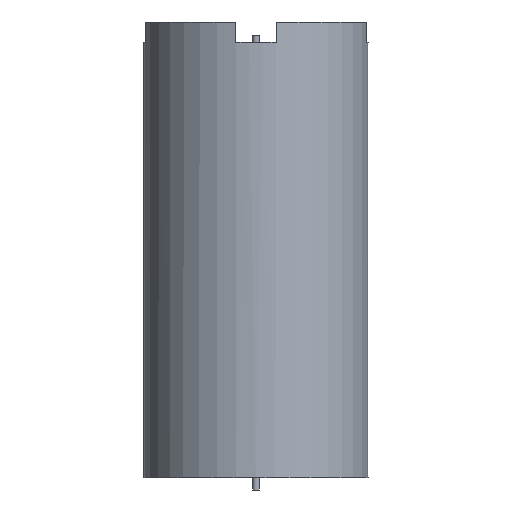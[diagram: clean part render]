
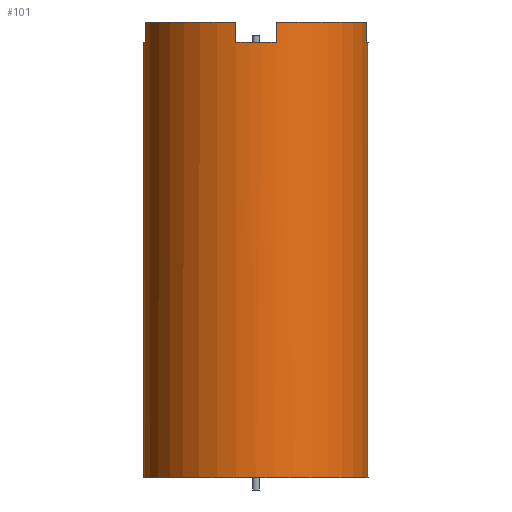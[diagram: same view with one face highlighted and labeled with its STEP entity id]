
A CAD part, front view. The second image highlights one B-rep face of the part: STEP entity #101.
In plain terms, the highlighted cylindrical face has radius 167.5 mm (diameter 335 mm), a full revolution.
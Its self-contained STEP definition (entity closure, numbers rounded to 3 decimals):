
#101 = ADVANCED_FACE( '', ( #212, #213 ), #214, .T. );
#212 = FACE_OUTER_BOUND( '', #333, .T. );
#213 = FACE_OUTER_BOUND( '', #334, .T. );
#214 = CYLINDRICAL_SURFACE( '', #335, 167.5 );
#333 = EDGE_LOOP( '', ( #552, #553, #554, #555, #556, #557, #558, #559, #560, #561, #562, #563, #564, #565, #566, #567 ) );
#334 = EDGE_LOOP( '', ( #568 ) );
#335 = AXIS2_PLACEMENT_3D( '', #569, #570, #571 );
#552 = ORIENTED_EDGE( '', *, *, #785, .F. );
#553 = ORIENTED_EDGE( '', *, *, #794, .T. );
#554 = ORIENTED_EDGE( '', *, *, #750, .F. );
#555 = ORIENTED_EDGE( '', *, *, #795, .F. );
#556 = ORIENTED_EDGE( '', *, *, #745, .F. );
#557 = ORIENTED_EDGE( '', *, *, #724, .T. );
#558 = ORIENTED_EDGE( '', *, *, #739, .F. );
#559 = ORIENTED_EDGE( '', *, *, #796, .F. );
#560 = ORIENTED_EDGE( '', *, *, #780, .F. );
#561 = ORIENTED_EDGE( '', *, *, #729, .T. );
#562 = ORIENTED_EDGE( '', *, *, #791, .F. );
#563 = ORIENTED_EDGE( '', *, *, #764, .F. );
#564 = ORIENTED_EDGE( '', *, *, #788, .F. );
#565 = ORIENTED_EDGE( '', *, *, #769, .T. );
#566 = ORIENTED_EDGE( '', *, *, #797, .F. );
#567 = ORIENTED_EDGE( '', *, *, #777, .F. );
#568 = ORIENTED_EDGE( '', *, *, #743, .T. );
#569 = CARTESIAN_POINT( '', ( 0., 0., 679. ) );
#570 = DIRECTION( '', ( 0., 0., 1. ) );
#571 = DIRECTION( '', ( -1., 0., 0. ) );
#724 = EDGE_CURVE( '', #868, #866, #869, .T. );
#729 = EDGE_CURVE( '', #877, #875, #878, .T. );
#739 = EDGE_CURVE( '', #890, #866, #893, .T. );
#743 = EDGE_CURVE( '', #898, #898, #899, .T. );
#745 = EDGE_CURVE( '', #868, #901, #902, .T. );
#750 = EDGE_CURVE( '', #907, #910, #911, .T. );
#764 = EDGE_CURVE( '', #931, #933, #934, .T. );
#769 = EDGE_CURVE( '', #942, #940, #943, .T. );
#777 = EDGE_CURVE( '', #953, #955, #956, .T. );
#780 = EDGE_CURVE( '', #877, #959, #960, .T. );
#785 = EDGE_CURVE( '', #966, #953, #968, .T. );
#788 = EDGE_CURVE( '', #942, #931, #971, .T. );
#791 = EDGE_CURVE( '', #933, #875, #974, .T. );
#794 = EDGE_CURVE( '', #966, #910, #977, .T. );
#795 = EDGE_CURVE( '', #901, #907, #978, .T. );
#796 = EDGE_CURVE( '', #959, #890, #979, .T. );
#797 = EDGE_CURVE( '', #955, #940, #980, .T. );
#866 = VERTEX_POINT( '', #1069 );
#868 = VERTEX_POINT( '', #1072 );
#869 = LINE( '', #1073, #1074 );
#875 = VERTEX_POINT( '', #1082 );
#877 = VERTEX_POINT( '', #1085 );
#878 = LINE( '', #1086, #1087 );
#890 = VERTEX_POINT( '', #1103 );
#893 = CIRCLE( '', #1107, 167.5 );
#898 = VERTEX_POINT( '', #1112 );
#899 = CIRCLE( '', #1113, 167.5 );
#901 = VERTEX_POINT( '', #1115 );
#902 = CIRCLE( '', #1116, 167.5 );
#907 = VERTEX_POINT( '', #1122 );
#910 = VERTEX_POINT( '', #1126 );
#911 = CIRCLE( '', #1127, 167.5 );
#931 = VERTEX_POINT( '', #1153 );
#933 = VERTEX_POINT( '', #1156 );
#934 = LINE( '', #1157, #1158 );
#940 = VERTEX_POINT( '', #1166 );
#942 = VERTEX_POINT( '', #1169 );
#943 = LINE( '', #1170, #1171 );
#953 = VERTEX_POINT( '', #1185 );
#955 = VERTEX_POINT( '', #1188 );
#956 = LINE( '', #1189, #1190 );
#959 = VERTEX_POINT( '', #1194 );
#960 = CIRCLE( '', #1195, 167.5 );
#966 = VERTEX_POINT( '', #1202 );
#968 = CIRCLE( '', #1205, 167.5 );
#971 = CIRCLE( '', #1208, 167.5 );
#974 = CIRCLE( '', #1211, 167.5 );
#977 = LINE( '', #1214, #1215 );
#978 = LINE( '', #1216, #1217 );
#979 = LINE( '', #1218, #1219 );
#980 = CIRCLE( '', #1220, 167.5 );
#1069 = CARTESIAN_POINT( '', ( 164.792, -30., 679. ) );
#1072 = CARTESIAN_POINT( '', ( 164.792, -30., 649. ) );
#1073 = CARTESIAN_POINT( '', ( 164.792, -30., 649. ) );
#1074 = VECTOR( '', #1287, 1000. );
#1082 = CARTESIAN_POINT( '', ( -30., -164.792, 679. ) );
#1085 = CARTESIAN_POINT( '', ( -30., -164.792, 649. ) );
#1086 = CARTESIAN_POINT( '', ( -30., -164.792, 649. ) );
#1087 = VECTOR( '', #1291, 1000. );
#1103 = CARTESIAN_POINT( '', ( 30., -164.792, 679. ) );
#1107 = AXIS2_PLACEMENT_3D( '', #1300, #1301, #1302 );
#1112 = CARTESIAN_POINT( '', ( 167.5, 0., 0. ) );
#1113 = AXIS2_PLACEMENT_3D( '', #1309, #1310, #1311 );
#1115 = CARTESIAN_POINT( '', ( 164.792, 30., 649. ) );
#1116 = AXIS2_PLACEMENT_3D( '', #1312, #1313, #1314 );
#1122 = CARTESIAN_POINT( '', ( 164.792, 30., 679. ) );
#1126 = CARTESIAN_POINT( '', ( 30., 164.792, 679. ) );
#1127 = AXIS2_PLACEMENT_3D( '', #1320, #1321, #1322 );
#1153 = CARTESIAN_POINT( '', ( -164.792, -30., 649. ) );
#1156 = CARTESIAN_POINT( '', ( -164.792, -30., 679. ) );
#1157 = CARTESIAN_POINT( '', ( -164.792, -30., 649. ) );
#1158 = VECTOR( '', #1339, 1000. );
#1166 = CARTESIAN_POINT( '', ( -164.792, 30., 679. ) );
#1169 = CARTESIAN_POINT( '', ( -164.792, 30., 649. ) );
#1170 = CARTESIAN_POINT( '', ( -164.792, 30., 649. ) );
#1171 = VECTOR( '', #1343, 1000. );
#1185 = CARTESIAN_POINT( '', ( -30., 164.792, 649. ) );
#1188 = CARTESIAN_POINT( '', ( -30., 164.792, 679. ) );
#1189 = CARTESIAN_POINT( '', ( -30., 164.792, 649. ) );
#1190 = VECTOR( '', #1349, 1000. );
#1194 = CARTESIAN_POINT( '', ( 30., -164.792, 649. ) );
#1195 = AXIS2_PLACEMENT_3D( '', #1351, #1352, #1353 );
#1202 = CARTESIAN_POINT( '', ( 30., 164.792, 649. ) );
#1205 = AXIS2_PLACEMENT_3D( '', #1359, #1360, #1361 );
#1208 = AXIS2_PLACEMENT_3D( '', #1365, #1366, #1367 );
#1211 = AXIS2_PLACEMENT_3D( '', #1371, #1372, #1373 );
#1214 = CARTESIAN_POINT( '', ( 30., 164.792, 649. ) );
#1215 = VECTOR( '', #1377, 1000. );
#1216 = CARTESIAN_POINT( '', ( 164.792, 30., 649. ) );
#1217 = VECTOR( '', #1378, 1000. );
#1218 = CARTESIAN_POINT( '', ( 30., -164.792, 649. ) );
#1219 = VECTOR( '', #1379, 1000. );
#1220 = AXIS2_PLACEMENT_3D( '', #1380, #1381, #1382 );
#1287 = DIRECTION( '', ( 0., 0., 1. ) );
#1291 = DIRECTION( '', ( 0., 0., 1. ) );
#1300 = CARTESIAN_POINT( '', ( 0., 0., 679. ) );
#1301 = DIRECTION( '', ( 0., 0., 1. ) );
#1302 = DIRECTION( '', ( 1., 0., 0. ) );
#1309 = CARTESIAN_POINT( '', ( 0., 0., 0. ) );
#1310 = DIRECTION( '', ( 0., 0., 1. ) );
#1311 = DIRECTION( '', ( 1., 0., 0. ) );
#1312 = CARTESIAN_POINT( '', ( 0., 0., 649. ) );
#1313 = DIRECTION( '', ( 0., 0., 1. ) );
#1314 = DIRECTION( '', ( 1., 0., 0. ) );
#1320 = CARTESIAN_POINT( '', ( 0., 0., 679. ) );
#1321 = DIRECTION( '', ( 0., 0., 1. ) );
#1322 = DIRECTION( '', ( 1., 0., 0. ) );
#1339 = DIRECTION( '', ( 0., 0., 1. ) );
#1343 = DIRECTION( '', ( 0., 0., 1. ) );
#1349 = DIRECTION( '', ( 0., 0., 1. ) );
#1351 = CARTESIAN_POINT( '', ( 0., 0., 649. ) );
#1352 = DIRECTION( '', ( 0., 0., 1. ) );
#1353 = DIRECTION( '', ( 1., 0., 0. ) );
#1359 = CARTESIAN_POINT( '', ( 0., 0., 649. ) );
#1360 = DIRECTION( '', ( 0., 0., 1. ) );
#1361 = DIRECTION( '', ( 1., 0., 0. ) );
#1365 = CARTESIAN_POINT( '', ( 0., 0., 649. ) );
#1366 = DIRECTION( '', ( 0., 0., 1. ) );
#1367 = DIRECTION( '', ( 1., 0., 0. ) );
#1371 = CARTESIAN_POINT( '', ( 0., 0., 679. ) );
#1372 = DIRECTION( '', ( 0., 0., 1. ) );
#1373 = DIRECTION( '', ( 1., 0., 0. ) );
#1377 = DIRECTION( '', ( 0., 0., 1. ) );
#1378 = DIRECTION( '', ( 0., 0., 1. ) );
#1379 = DIRECTION( '', ( 0., 0., 1. ) );
#1380 = CARTESIAN_POINT( '', ( 0., 0., 679. ) );
#1381 = DIRECTION( '', ( 0., 0., 1. ) );
#1382 = DIRECTION( '', ( 1., 0., 0. ) );
